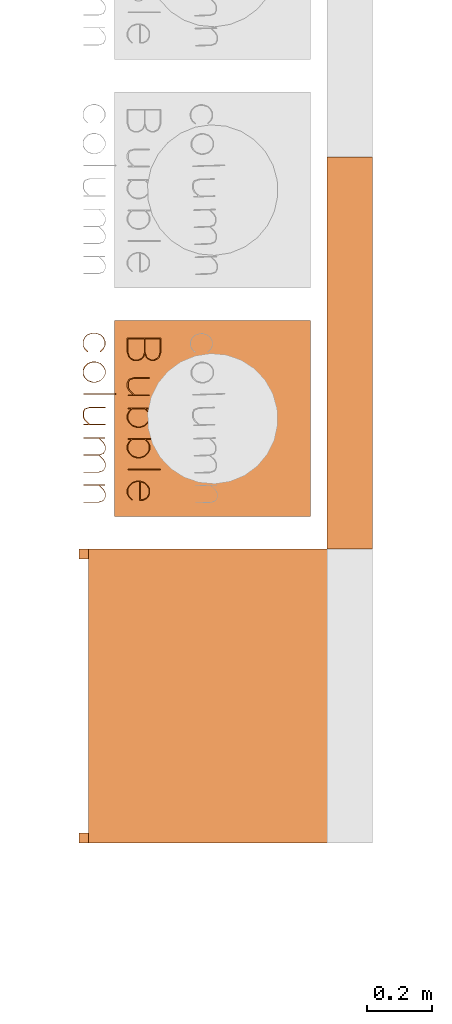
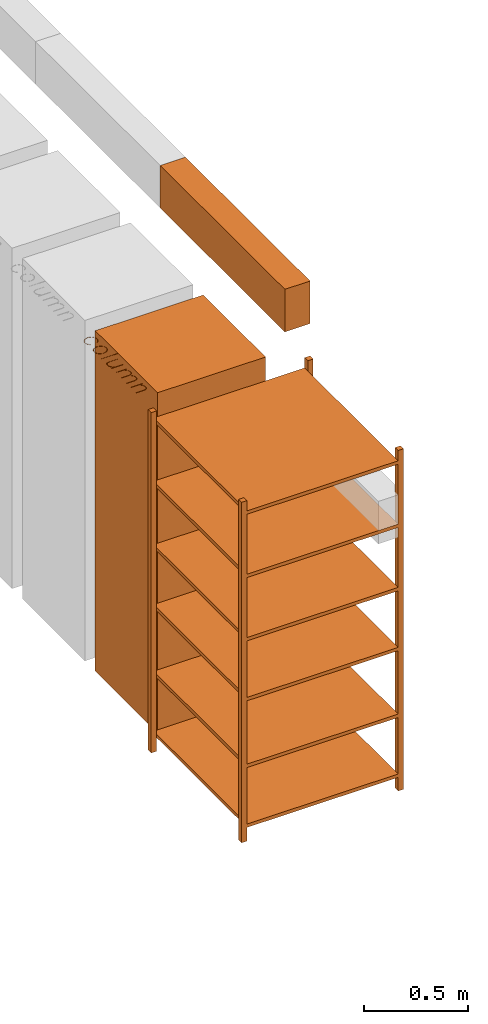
# One storey, part 6 of 43: 3 proxies.
"""IFC2X3 building model written with IfcOpenShell, lengths in metres."""

from ifc_helpers import new_model, entity, si_unit, converted_unit, derived_unit, direction, frame, frame_2d, origin, origin_2d_with_axis, place, context, subcontext, project, spatial, rectangle, extrude, face_set, surface_model, source, transform, mapped, material, material_list, type_object, type_shapes, element, save


model = new_model("IFC2X3")

# Units and contexts
model_context = context("Model", 3, precision=1e-05, world=origin(), true_north=direction((6.12303176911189e-17, 1.0)))
body_context = subcontext(model_context, "Body", "Model", "MODEL_VIEW")
ifc_project = project(units=[si_unit("LENGTHUNIT", "METRE"), si_unit("AREAUNIT", "SQUARE_METRE"), si_unit("VOLUMEUNIT", "CUBIC_METRE"), converted_unit("PLANEANGLEUNIT", "DEGREE", entity("IfcRatioMeasure", 0.0174532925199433), si_unit("PLANEANGLEUNIT", "RADIAN"), dimensions=[0, 0, 0, 0, 0, 0, 0]), si_unit("MASSUNIT", "GRAM", prefix="KILO"), derived_unit("MASSDENSITYUNIT", [(si_unit("MASSUNIT", "GRAM", prefix="KILO"), 1), (si_unit("LENGTHUNIT", "METRE"), -3)]), derived_unit("MOMENTOFINERTIAUNIT", [(si_unit("LENGTHUNIT", "METRE"), 4)]), si_unit("TIMEUNIT", "SECOND"), si_unit("FREQUENCYUNIT", "HERTZ"), si_unit("THERMODYNAMICTEMPERATUREUNIT", "DEGREE_CELSIUS"), derived_unit("THERMALTRANSMITTANCEUNIT", [(si_unit("MASSUNIT", "GRAM", prefix="KILO"), 1), (si_unit("THERMODYNAMICTEMPERATUREUNIT", "KELVIN"), -1), (si_unit("TIMEUNIT", "SECOND"), -3)]), derived_unit("VOLUMETRICFLOWRATEUNIT", [(si_unit("LENGTHUNIT", "METRE"), 3), (si_unit("TIMEUNIT", "SECOND"), -1)]), si_unit("ELECTRICCURRENTUNIT", "AMPERE"), si_unit("ELECTRICVOLTAGEUNIT", "VOLT"), si_unit("POWERUNIT", "WATT"), si_unit("FORCEUNIT", "NEWTON", prefix="KILO"), si_unit("ILLUMINANCEUNIT", "LUX"), si_unit("LUMINOUSFLUXUNIT", "LUMEN"), si_unit("LUMINOUSINTENSITYUNIT", "CANDELA"), derived_unit("USERDEFINED", [(si_unit("MASSUNIT", "GRAM", prefix="KILO"), -1), (si_unit("LENGTHUNIT", "METRE"), -2), (si_unit("TIMEUNIT", "SECOND"), 3), (si_unit("LUMINOUSFLUXUNIT", "LUMEN"), 1)]), derived_unit("LINEARVELOCITYUNIT", [(si_unit("LENGTHUNIT", "METRE"), 1), (si_unit("TIMEUNIT", "SECOND"), -1)]), si_unit("PRESSUREUNIT", "PASCAL"), derived_unit("USERDEFINED", [(si_unit("LENGTHUNIT", "METRE"), -2), (si_unit("MASSUNIT", "GRAM", prefix="KILO"), 1), (si_unit("TIMEUNIT", "SECOND"), -2)]), derived_unit("LINEARFORCEUNIT", [(si_unit("MASSUNIT", "GRAM", prefix="KILO"), 1), (si_unit("LENGTHUNIT", "METRE"), 1), (si_unit("TIMEUNIT", "SECOND"), -2), (si_unit("LENGTHUNIT", "METRE"), -1)]), derived_unit("PLANARFORCEUNIT", [(si_unit("MASSUNIT", "GRAM", prefix="KILO"), 1), (si_unit("LENGTHUNIT", "METRE"), 1), (si_unit("TIMEUNIT", "SECOND"), -2), (si_unit("LENGTHUNIT", "METRE"), -2)])], contexts=[model_context])

# Site, building, storey
site_placement = place(None, origin())
site = spatial("IfcSite", under=ifc_project, at=site_placement, Name="Default", CompositionType="ELEMENT")
building_placement = place(site_placement, origin())
building = spatial("IfcBuilding", under=site, at=building_placement, CompositionType="ELEMENT")
storey_placement = place(building_placement, frame((0.0, 0.0, 3.0)))
storey = spatial("IfcBuildingStorey", under=building, at=storey_placement, Name="01 OG", CompositionType="ELEMENT", Elevation=3.0)

# Proxies
ifc_material_1 = material(Name="dh_EZ blau")
ifc_material_2 = material(Name="dh_Weiß")
ifc_material_list_1 = material_list([ifc_material_1, ifc_material_2])
ifc_material_3 = material(Name="dh_Blau")
ifc_material_list_2 = material_list([ifc_material_2, ifc_material_3, ifc_material_1])
building_element_proxy_type_1 = type_object("IfcBuildingElementProxyType", Name="dh_Einzel_ MEK:MEK 120", PredefinedType="NOTDEFINED", material=ifc_material_list_2)
shared_shape_1 = source(origin(), body_context, "Body", "SweptSolid", [
    extrude(rectangle(XDim=0.06, YDim=0.0299999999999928, at=origin_2d_with_axis()), frame((0.585000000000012, 0.33, 2.19499999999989), z_axis=(0.0, 0.0, 1.0), x_axis=(0.0, 1.0, 0.0)), (0.0, 0.0, 1.0), 0.240000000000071),
    extrude(rectangle(XDim=0.06, YDim=0.0299999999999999, at=origin_2d_with_axis()), frame((-0.584999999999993, 0.33, 2.19499999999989), z_axis=(0.0, 0.0, 1.0), x_axis=(0.0, 1.0, 0.0)), (0.0, 0.0, 1.0), 0.240000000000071),
    extrude(rectangle(XDim=0.06, YDim=1.20000000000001, at=frame_2d((0.0, -2.05391259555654e-15), x_axis=(1.0, 0.0))), frame((0.0, 0.33, 2.43499999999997), z_axis=(0.0, 0.0, 1.0), x_axis=(0.0, 1.0, 0.0)), (0.0, 0.0, 1.0), 0.00500000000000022),
    extrude(rectangle(XDim=1.20000000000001, YDim=0.14, at=frame_2d((-3.21964677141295e-15, -0.00333333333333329), x_axis=(1.0, 0.0))), frame((0.0, 0.293333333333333, 2.18999999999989)), (0.0, 0.0, 1.0), 0.00499999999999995),
    extrude(rectangle(XDim=0.08, YDim=1.20000000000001, at=frame_2d((0.0133333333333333, 2.55351295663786e-15), x_axis=(1.0, 0.0))), frame((0.0, 0.273333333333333, 2.43499999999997), z_axis=(0.0, 0.0, 1.0), x_axis=(0.0, -1.0, 0.0)), (0.0, 0.0, 1.0), 0.00499999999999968),
    extrude(rectangle(XDim=1.2, YDim=0.08, at=frame_2d((0.0, 3.46944695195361e-17), x_axis=(1.0, 0.0))), frame((0.0, 0.26, 2.195), z_axis=(0.0, 0.0, 1.0), x_axis=(-1.0, 0.0, 0.0)), (0.0, 0.0, 1.0), 0.239999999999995),
])
type_shapes(building_element_proxy_type_1, [shared_shape_1])
proxy_1_placement = place(storey_placement, frame((16.6900000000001, 11.8239999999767, 0.7), z_axis=(0.0, 0.0, 1.0), x_axis=(0.0, -1.0, 0.0)))
element("IfcBuildingElementProxy", 1, at=proxy_1_placement, inside=storey, type_object=building_element_proxy_type_1, material=ifc_material_list_1, Name="dh_Einzel_ MEK:MEK 120", ObjectType="dh_Einzel_ MEK:MEK 120", context=body_context, shape_type="MappedRepresentation", body=[
    mapped(shared_shape_1, transform((0.0, 0.0, 0.0), scale=1.0)),
])
ifc_material_4 = material(Name="Aluminium")
ifc_material_5 = material(Name="UHMW, schwarz")
ifc_material_list_3 = material_list([ifc_material_4, ifc_material_5])
ifc_material_list_4 = material_list([ifc_material_5, ifc_material_4])
building_element_proxy_type_2 = type_object("IfcBuildingElementProxyType", Name="dh_Stahlregal:Stahlregal-FB6-90", PredefinedType="NOTDEFINED", material=ifc_material_list_4)
shared_shape_2 = source(origin(), body_context, "Body", "SweptSolid", [
    extrude(rectangle(XDim=0.840000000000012, YDim=0.9, at=origin_2d_with_axis()), frame((0.0, -0.450000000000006, 0.0800000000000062), z_axis=(0.0, 0.0, 1.0), x_axis=(0.0, 1.0, 0.0)), (0.0, 0.0, 1.0), 0.0199999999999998),
    extrude(rectangle(XDim=0.840000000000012, YDim=0.9, at=origin_2d_with_axis()), frame((0.0, -0.450000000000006, 0.431999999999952), z_axis=(0.0, 0.0, 1.0), x_axis=(0.0, 1.0, 0.0)), (0.0, 0.0, 1.0), 0.0200000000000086),
    extrude(rectangle(XDim=0.840000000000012, YDim=0.9, at=origin_2d_with_axis()), frame((0.0, -0.450000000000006, 0.823999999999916), z_axis=(0.0, 0.0, 1.0), x_axis=(0.0, 1.0, 0.0)), (0.0, 0.0, 1.0), 0.0199999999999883),
    extrude(rectangle(XDim=0.840000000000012, YDim=0.9, at=origin_2d_with_axis()), frame((0.0, -0.450000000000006, 1.17599999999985), z_axis=(0.0, 0.0, 1.0), x_axis=(0.0, 1.0, 0.0)), (0.0, 0.0, 1.0), 0.0200000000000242),
    extrude(rectangle(XDim=0.840000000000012, YDim=0.9, at=origin_2d_with_axis()), frame((0.0, -0.450000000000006, 1.54799999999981), z_axis=(0.0, 0.0, 1.0), x_axis=(0.0, 1.0, 0.0)), (0.0, 0.0, 1.0), 0.0200000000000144),
    extrude(rectangle(XDim=0.840000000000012, YDim=0.9, at=origin_2d_with_axis()), frame((0.0, -0.450000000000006, 1.91999999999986), z_axis=(0.0, 0.0, 1.0), x_axis=(0.0, 1.0, 0.0)), (0.0, 0.0, 1.0), 0.0199999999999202),
    extrude(rectangle(XDim=0.0299999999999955, YDim=0.0300000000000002, at=origin_2d_with_axis()), frame((-0.435000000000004, -0.885000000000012, 1.995)), (0.0, 0.0, 1.0), 0.00500000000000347),
    extrude(rectangle(XDim=0.0300000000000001, YDim=0.0300000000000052, at=origin_2d_with_axis()), frame((0.434999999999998, -0.015, 1.995), z_axis=(0.0, 0.0, 1.0), x_axis=(0.0, 1.0, 0.0)), (0.0, 0.0, 1.0), 0.00500000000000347),
    extrude(rectangle(XDim=0.0299999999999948, YDim=0.03, at=origin_2d_with_axis()), frame((-0.435000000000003, -0.015, 1.995)), (0.0, 0.0, 1.0), 0.00500000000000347),
    extrude(rectangle(XDim=0.0300000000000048, YDim=0.0300000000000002, at=origin_2d_with_axis()), frame((0.434999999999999, -0.885000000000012, 1.995)), (0.0, 0.0, 1.0), 0.00500000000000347),
    extrude(rectangle(XDim=0.03, YDim=0.0299999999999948, at=origin_2d_with_axis()), frame((-0.435000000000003, -0.015, 0.00499999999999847), z_axis=(0.0, 0.0, 1.0), x_axis=(0.0, -1.0, 0.0)), (0.0, 0.0, 1.0), 1.99),
    extrude(rectangle(XDim=0.0299999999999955, YDim=0.0300000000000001, at=frame_2d((0.0, -6.76542155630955e-17), x_axis=(1.0, 0.0))), frame((-0.435000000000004, -0.885000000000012, 0.00499999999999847)), (0.0, 0.0, 1.0), 1.99),
    extrude(rectangle(XDim=0.0300000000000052, YDim=0.0300000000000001, at=origin_2d_with_axis()), frame((0.434999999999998, -0.015, 0.00499999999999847)), (0.0, 0.0, 1.0), 1.99),
    extrude(rectangle(XDim=0.0300000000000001, YDim=0.0300000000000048, at=frame_2d((-6.76542155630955e-17, 0.0), x_axis=(1.0, 0.0))), frame((0.434999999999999, -0.885000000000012, 0.00499999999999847), z_axis=(0.0, 0.0, 1.0), x_axis=(0.0, 1.0, 0.0)), (0.0, 0.0, 1.0), 1.99),
    extrude(rectangle(XDim=0.0300000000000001, YDim=0.0300000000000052, at=frame_2d((0.0, -6.76542155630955e-17), x_axis=(1.0, 0.0))), frame((0.434999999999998, -0.015, 0.0), z_axis=(0.0, 0.0, 1.0), x_axis=(0.0, -1.0, 0.0)), (0.0, 0.0, 1.0), 0.005),
    extrude(rectangle(XDim=0.0299999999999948, YDim=0.03, at=origin_2d_with_axis()), frame((-0.435000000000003, -0.015, 0.0), z_axis=(0.0, 0.0, 1.0), x_axis=(-1.0, 0.0, 0.0)), (0.0, 0.0, 1.0), 0.005),
    extrude(rectangle(XDim=0.0299999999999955, YDim=0.0300000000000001, at=frame_2d((6.76542155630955e-17, 6.76542155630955e-17), x_axis=(1.0, 0.0))), frame((-0.435000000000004, -0.885000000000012, 0.0), z_axis=(0.0, 0.0, 1.0), x_axis=(-1.0, 0.0, 0.0)), (0.0, 0.0, 1.0), 0.005),
    extrude(rectangle(XDim=0.0300000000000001, YDim=0.0300000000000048, at=frame_2d((6.76542155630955e-17, 0.0), x_axis=(1.0, 0.0))), frame((0.434999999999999, -0.885000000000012, 0.0), z_axis=(0.0, 0.0, 1.0), x_axis=(0.0, -1.0, 0.0)), (0.0, 0.0, 1.0), 0.005),
])
type_shapes(building_element_proxy_type_2, [shared_shape_2])
proxy_2_placement = place(storey_placement, frame((17.0500000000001, 10.7739999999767, 0.7), z_axis=(0.0, 0.0, 1.0), x_axis=(0.0, -1.0, 0.0)))
element("IfcBuildingElementProxy", 2, at=proxy_2_placement, inside=storey, type_object=building_element_proxy_type_2, material=ifc_material_list_3, Name="dh_Stahlregal:Stahlregal-FB6-90", ObjectType="dh_Stahlregal:Stahlregal-FB6-90", context=body_context, shape_type="MappedRepresentation", body=[
    mapped(shared_shape_2, transform((0.0, 0.0, 0.0), scale=1.0)),
])
ifc_material_6 = material(Name="dh_Stellfläche")
building_element_proxy_type_3 = type_object("IfcBuildingElementProxyType", Name="dh_Gerät_Stellfläche Bestand:Nutzergerät", PredefinedType="NOTDEFINED", material=ifc_material_6)
shared_shape_3 = source(origin(), body_context, "Body", "SurfaceModel", [
    surface_model("IfcFaceBasedSurfaceModel", [(-0.199099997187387, -0.507671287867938, 2.005), (-0.187681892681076, -0.503831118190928, 2.005), (-0.182484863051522, -0.498736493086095, 2.005), (-0.177569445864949, -0.488726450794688, 2.005), (-0.177569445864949, -0.478511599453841, 2.005), (-0.182484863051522, -0.468424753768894, 2.005), (-0.187681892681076, -0.46338133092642, 2.005), (-0.202351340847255, -0.458414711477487, 2.005), (-0.246385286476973, -0.458414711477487, 2.005), (-0.246385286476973, -0.561638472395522, 2.005), (-0.202351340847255, -0.561638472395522, 2.005), (-0.187681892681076, -0.556799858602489, 2.005), (-0.182484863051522, -0.551679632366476, 2.005), (-0.177569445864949, -0.541669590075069, 2.005), (-0.177569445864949, -0.526692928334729, 2.005), (-0.182484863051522, -0.516606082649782, 2.005), (-0.187681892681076, -0.511511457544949, 2.005), (-0.202607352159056, -0.508746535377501, 2.005), (-0.188731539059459, -0.513329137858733, 2.005), (-0.184353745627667, -0.517834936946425, 2.005), (-0.179771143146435, -0.52692333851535, 2.005), (-0.179771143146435, -0.540671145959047, 2.005), (-0.184353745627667, -0.549785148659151, 2.005), (-0.188731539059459, -0.554290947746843, 2.005), (-0.202607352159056, -0.558873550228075, 2.005), (-0.244260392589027, -0.558873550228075, 2.005), (-0.244260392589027, -0.508746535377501, 2.005), (-0.244260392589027, -0.506544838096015, 2.005), (-0.244260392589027, -0.461128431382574, 2.005), (-0.202607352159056, -0.461128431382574, 2.005), (-0.188731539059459, -0.465711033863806, 2.005), (-0.184353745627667, -0.470216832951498, 2.005), (-0.179771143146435, -0.479330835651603, 2.005), (-0.179771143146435, -0.488291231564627, 2.005), (-0.184353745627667, -0.497456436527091, 2.005), (-0.188731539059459, -0.501885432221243, 2.005), (-0.202607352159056, -0.506544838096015, 2.005), (-0.0728096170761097, -0.543922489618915, 2.005), (-0.0728096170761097, -0.559999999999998, 2.005), (-0.0706079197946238, -0.559999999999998, 2.005), (-0.0706079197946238, -0.492822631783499, 2.005), (-0.0728096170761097, -0.492822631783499, 2.005), (-0.0728096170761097, -0.540031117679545, 2.005), (-0.0866854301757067, -0.553778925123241, 2.005), (-0.095773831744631, -0.558361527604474, 2.005), (-0.109521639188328, -0.558361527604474, 2.005), (-0.118354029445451, -0.553906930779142, 2.005), (-0.123013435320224, -0.540287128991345, 2.005), (-0.123013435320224, -0.492822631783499, 2.005), (-0.125138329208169, -0.492822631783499, 2.005), (-0.125138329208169, -0.541413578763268, 2.005), (-0.120274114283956, -0.556646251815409, 2.005), (-0.110059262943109, -0.561638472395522, 2.005), (-0.0952362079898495, -0.561638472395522, 2.005), (-0.0852773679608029, -0.556774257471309, 2.005), (-0.0317454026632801, -0.559999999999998, 2.005), (-0.0296205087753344, -0.559999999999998, 2.005), (-0.0296205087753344, -0.548863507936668, 2.005), (-0.0218377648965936, -0.55682545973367, 2.005), (-0.0118789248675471, -0.561638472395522, 2.005), (0.00291852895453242, -0.561638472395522, 2.005), (0.0128261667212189, -0.55682545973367, 2.005), (0.0226570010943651, -0.546866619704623, 2.005), (0.0275724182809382, -0.532094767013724, 2.005), (0.0275724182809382, -0.522212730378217, 2.005), (0.0226570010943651, -0.507440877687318, 2.005), (0.0128261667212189, -0.497482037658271, 2.005), (0.00291852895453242, -0.492617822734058, 2.005), (-0.0118789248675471, -0.492617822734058, 2.005), (-0.0218377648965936, -0.497482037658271, 2.005), (-0.0296205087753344, -0.505367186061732, 2.005), (-0.0296205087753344, -0.460053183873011, 2.005), (-0.0317454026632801, -0.460053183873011, 2.005), (-0.0296205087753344, -0.508004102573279, 2.005), (-0.02045530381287, -0.499043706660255, 2.005), (-0.0113413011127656, -0.494384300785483, 2.005), (0.00240650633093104, -0.494384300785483, 2.005), (0.0114949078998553, -0.499043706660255, 2.005), (0.0207113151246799, -0.50813210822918, 2.005), (0.0253707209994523, -0.522007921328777, 2.005), (0.0253707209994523, -0.531249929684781, 2.005), (0.0207113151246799, -0.545125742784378, 2.005), (0.0114949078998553, -0.554290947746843, 2.005), (0.00240650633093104, -0.558873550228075, 2.005), (-0.0113413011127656, -0.558873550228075, 2.005), (-0.02045530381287, -0.554290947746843, 2.005), (-0.0296205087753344, -0.545253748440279, 2.005), (0.0616475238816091, -0.559999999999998, 2.005), (0.0637724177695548, -0.559999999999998, 2.005), (0.0637724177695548, -0.548863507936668, 2.005), (0.0715551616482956, -0.55682545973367, 2.005), (0.0815140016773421, -0.561638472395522, 2.005), (0.0963114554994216, -0.561638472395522, 2.005), (0.106219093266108, -0.55682545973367, 2.005), (0.116049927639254, -0.546866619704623, 2.005), (0.120965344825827, -0.532094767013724, 2.005), (0.120965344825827, -0.522212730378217, 2.005), (0.116049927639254, -0.507440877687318, 2.005), (0.106219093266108, -0.497482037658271, 2.005), (0.0963114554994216, -0.492617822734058, 2.005), (0.0815140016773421, -0.492617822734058, 2.005), (0.0715551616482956, -0.497482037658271, 2.005), (0.0637724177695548, -0.505367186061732, 2.005), (0.0637724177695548, -0.460053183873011, 2.005), (0.0616475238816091, -0.460053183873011, 2.005), (0.0637724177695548, -0.508004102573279, 2.005), (0.0729376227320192, -0.499043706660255, 2.005), (0.0820516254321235, -0.494384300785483, 2.005), (0.0957994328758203, -0.494384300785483, 2.005), (0.104887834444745, -0.499043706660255, 2.005), (0.114104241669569, -0.50813210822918, 2.005), (0.118763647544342, -0.522007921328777, 2.005), (0.118763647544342, -0.531249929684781, 2.005), (0.114104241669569, -0.545125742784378, 2.005), (0.104887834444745, -0.554290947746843, 2.005), (0.0957994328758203, -0.558873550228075, 2.005), (0.0820516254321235, -0.558873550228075, 2.005), (0.0729376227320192, -0.554290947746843, 2.005), (0.0637724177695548, -0.545253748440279, 2.005), (0.155040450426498, -0.559999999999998, 2.005), (0.157165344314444, -0.559999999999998, 2.005), (0.157165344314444, -0.460053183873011, 2.005), (0.155040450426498, -0.460053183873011, 2.005), (0.250276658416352, -0.547199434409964, 2.005), (0.248612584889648, -0.545535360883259, 2.005), (0.239242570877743, -0.554982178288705, 2.005), (0.230154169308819, -0.559564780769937, 2.005), (0.216406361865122, -0.559564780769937, 2.005), (0.207292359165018, -0.554982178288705, 2.005), (0.197999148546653, -0.54579137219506, 2.005), (0.193416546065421, -0.531889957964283, 2.005), (0.193416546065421, -0.523646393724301, 2.005), (0.250532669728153, -0.523646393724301, 2.005), (0.250532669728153, -0.512714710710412, 2.005), (0.24561725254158, -0.502730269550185, 2.005), (0.240573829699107, -0.497686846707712, 2.005), (0.23066619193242, -0.492822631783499, 2.005), (0.215868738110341, -0.492822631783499, 2.005), (0.205909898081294, -0.497686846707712, 2.005), (0.196155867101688, -0.507671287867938, 2.005), (0.191240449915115, -0.522366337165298, 2.005), (0.191240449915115, -0.532222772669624, 2.005), (0.196155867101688, -0.546917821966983, 2.005), (0.205909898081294, -0.55685106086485, 2.005), (0.215868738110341, -0.561638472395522, 2.005), (0.23066619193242, -0.561638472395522, 2.005), (0.240573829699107, -0.55685106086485, 2.005), (0.193826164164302, -0.521444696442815, 2.005), (0.197999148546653, -0.508746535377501, 2.005), (0.207292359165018, -0.499658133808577, 2.005), (0.216406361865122, -0.494998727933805, 2.005), (0.230154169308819, -0.494998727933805, 2.005), (0.239242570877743, -0.499658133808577, 2.005), (0.243748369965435, -0.504163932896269, 2.005), (0.248330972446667, -0.513277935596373, 2.005), (0.248330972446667, -0.521444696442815, 2.005), (-0.203580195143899, -0.6832458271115, 2.005), (-0.205244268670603, -0.681581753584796, 2.005), (-0.214614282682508, -0.691028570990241, 2.005), (-0.223702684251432, -0.695611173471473, 2.005), (-0.237450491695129, -0.695611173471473, 2.005), (-0.246564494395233, -0.691028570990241, 2.005), (-0.255857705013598, -0.681837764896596, 2.005), (-0.26044030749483, -0.667936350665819, 2.005), (-0.26044030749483, -0.658694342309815, 2.005), (-0.255857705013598, -0.644767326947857, 2.005), (-0.246564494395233, -0.635653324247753, 2.005), (-0.237450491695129, -0.630993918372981, 2.005), (-0.223702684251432, -0.630993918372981, 2.005), (-0.214614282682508, -0.635653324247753, 2.005), (-0.205244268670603, -0.645048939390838, 2.005), (-0.203580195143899, -0.643436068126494, 2.005), (-0.213283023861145, -0.633733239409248, 2.005), (-0.223190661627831, -0.628869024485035, 2.005), (-0.237988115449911, -0.628869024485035, 2.005), (-0.247946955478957, -0.633733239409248, 2.005), (-0.257700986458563, -0.643717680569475, 2.005), (-0.262616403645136, -0.658412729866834, 2.005), (-0.262616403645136, -0.66826916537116, 2.005), (-0.257700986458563, -0.682964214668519, 2.005), (-0.247946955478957, -0.692897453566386, 2.005), (-0.237988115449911, -0.697684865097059, 2.005), (-0.223190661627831, -0.697684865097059, 2.005), (-0.213283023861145, -0.692897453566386, 2.005), (-0.114974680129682, -0.682964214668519, 2.005), (-0.110059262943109, -0.66826916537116, 2.005), (-0.110059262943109, -0.658412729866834, 2.005), (-0.114974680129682, -0.643717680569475, 2.005), (-0.124805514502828, -0.633733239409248, 2.005), (-0.134713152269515, -0.628869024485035, 2.005), (-0.149510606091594, -0.628869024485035, 2.005), (-0.159469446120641, -0.633733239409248, 2.005), (-0.169223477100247, -0.643717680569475, 2.005), (-0.17413889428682, -0.658412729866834, 2.005), (-0.17413889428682, -0.66826916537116, 2.005), (-0.169223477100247, -0.682964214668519, 2.005), (-0.159469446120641, -0.692897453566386, 2.005), (-0.149510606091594, -0.697684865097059, 2.005), (-0.134713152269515, -0.697684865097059, 2.005), (-0.124805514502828, -0.692897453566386, 2.005), (-0.116920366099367, -0.681172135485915, 2.005), (-0.126136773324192, -0.690337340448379, 2.005), (-0.135225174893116, -0.694919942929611, 2.005), (-0.148972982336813, -0.694919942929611, 2.005), (-0.158086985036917, -0.690337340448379, 2.005), (-0.167380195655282, -0.681172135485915, 2.005), (-0.171962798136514, -0.667296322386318, 2.005), (-0.171962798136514, -0.658054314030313, 2.005), (-0.167380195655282, -0.644178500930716, 2.005), (-0.158086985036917, -0.635090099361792, 2.005), (-0.148972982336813, -0.630430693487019, 2.005), (-0.135225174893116, -0.630430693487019, 2.005), (-0.126136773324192, -0.635090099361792, 2.005), (-0.116920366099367, -0.644178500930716, 2.005), (-0.112260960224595, -0.658054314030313, 2.005), (-0.112260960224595, -0.667296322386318, 2.005), (-0.0759841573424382, -0.696046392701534, 2.005), (-0.0738592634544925, -0.696046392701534, 2.005), (-0.0738592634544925, -0.596099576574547, 2.005), (-0.0759841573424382, -0.596099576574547, 2.005), (0.0173063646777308, -0.679968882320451, 2.005), (0.0173063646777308, -0.696046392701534, 2.005), (0.0195080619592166, -0.696046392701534, 2.005), (0.0195080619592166, -0.628869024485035, 2.005), (0.0173063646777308, -0.628869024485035, 2.005), (0.0173063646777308, -0.676077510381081, 2.005), (0.00343055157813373, -0.689825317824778, 2.005), (-0.00565784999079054, -0.69440792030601, 2.005), (-0.0194056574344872, -0.69440792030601, 2.005), (-0.0282380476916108, -0.689953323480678, 2.005), (-0.0328974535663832, -0.676333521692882, 2.005), (-0.0328974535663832, -0.628869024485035, 2.005), (-0.0350223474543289, -0.628869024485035, 2.005), (-0.0350223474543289, -0.677459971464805, 2.005), (-0.0301581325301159, -0.692692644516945, 2.005), (-0.0199432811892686, -0.697684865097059, 2.005), (-0.00512022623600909, -0.697684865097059, 2.005), (0.00483861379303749, -0.692820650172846, 2.005), (0.0583705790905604, -0.696046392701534, 2.005), (0.060495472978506, -0.696046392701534, 2.005), (0.060495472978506, -0.648837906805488, 2.005), (0.0743968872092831, -0.635090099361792, 2.005), (0.0835364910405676, -0.630430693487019, 2.005), (0.0972330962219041, -0.630430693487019, 2.005), (0.106116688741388, -0.634962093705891, 2.005), (0.11069929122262, -0.648556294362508, 2.005), (0.11069929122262, -0.696046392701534, 2.005), (0.112900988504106, -0.696046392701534, 2.005), (0.112900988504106, -0.648837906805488, 2.005), (0.126776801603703, -0.635090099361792, 2.005), (0.135865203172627, -0.630430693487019, 2.005), (0.149613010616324, -0.630430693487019, 2.005), (0.158445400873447, -0.634962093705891, 2.005), (0.16310480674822, -0.648556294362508, 2.005), (0.16310480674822, -0.696046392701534, 2.005), (0.165229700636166, -0.696046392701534, 2.005), (0.165229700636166, -0.648684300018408, 2.005), (0.160365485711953, -0.633810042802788, 2.005), (0.150150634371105, -0.628869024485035, 2.005), (0.135353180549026, -0.628869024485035, 2.005), (0.125394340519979, -0.633682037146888, 2.005), (0.112235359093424, -0.646789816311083, 2.005), (0.107985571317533, -0.633810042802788, 2.005), (0.0978219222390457, -0.628869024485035, 2.005), (0.082947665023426, -0.628869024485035, 2.005), (0.0730656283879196, -0.633682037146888, 2.005), (0.060495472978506, -0.646252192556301, 2.005), (0.060495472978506, -0.629790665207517, 2.005), (0.0583705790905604, -0.629790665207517, 2.005), (0.202556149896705, -0.696046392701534, 2.005), (0.204681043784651, -0.696046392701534, 2.005), (0.204681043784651, -0.648837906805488, 2.005), (0.218582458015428, -0.635090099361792, 2.005), (0.227722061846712, -0.630430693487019, 2.005), (0.241418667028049, -0.630430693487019, 2.005), (0.250302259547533, -0.634962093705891, 2.005), (0.254884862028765, -0.648556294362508, 2.005), (0.254884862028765, -0.696046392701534, 2.005), (0.257086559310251, -0.696046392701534, 2.005), (0.257086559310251, -0.648684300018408, 2.005), (0.252171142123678, -0.633810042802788, 2.005), (0.24200749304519, -0.628869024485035, 2.005), (0.227133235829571, -0.628869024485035, 2.005), (0.217251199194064, -0.633682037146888, 2.005), (0.204681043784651, -0.646252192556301, 2.005), (0.204681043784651, -0.629790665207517, 2.005), (0.202556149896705, -0.629790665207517, 2.005), (0.300483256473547, 0.0, 2.0), (0.300483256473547, -0.600000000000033, 2.0), (-0.300483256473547, -0.600000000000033, 2.0), (-0.300483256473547, 0.0, 2.0), (0.300483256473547, 0.0, 0.0), (0.300483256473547, -0.600000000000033, 0.0), (-0.300483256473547, -0.600000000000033, 0.0), (-0.300483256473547, 0.0, 0.0)], [face_set([[[0, 1, 2, 3, 4, 5, 6, 7, 8, 9, 10, 11, 12, 13, 14, 15, 16], [17, 18, 19, 20, 21, 22, 23, 24, 25, 26], [27, 28, 29, 30, 31, 32, 33, 34, 35, 36]]]), face_set([[[37, 38, 39, 40, 41, 42, 43, 44, 45, 46, 47, 48, 49, 50, 51, 52, 53, 54]]]), face_set([[[55, 56, 57, 58, 59, 60, 61, 62, 63, 64, 65, 66, 67, 68, 69, 70, 71, 72], [73, 74, 75, 76, 77, 78, 79, 80, 81, 82, 83, 84, 85, 86]]]), face_set([[[87, 88, 89, 90, 91, 92, 93, 94, 95, 96, 97, 98, 99, 100, 101, 102, 103, 104], [105, 106, 107, 108, 109, 110, 111, 112, 113, 114, 115, 116, 117, 118]]]), face_set([[[119, 120, 121, 122]]]), face_set([[[123, 124, 125, 126, 127, 128, 129, 130, 131, 132, 133, 134, 135, 136, 137, 138, 139, 140, 141, 142, 143, 144, 145, 146], [147, 148, 149, 150, 151, 152, 153, 154, 155]]]), face_set([[[156, 157, 158, 159, 160, 161, 162, 163, 164, 165, 166, 167, 168, 169, 170, 171, 172, 173, 174, 175, 176, 177, 178, 179, 180, 181, 182, 183]]]), face_set([[[184, 185, 186, 187, 188, 189, 190, 191, 192, 193, 194, 195, 196, 197, 198, 199], [200, 201, 202, 203, 204, 205, 206, 207, 208, 209, 210, 211, 212, 213, 214, 215]]]), face_set([[[216, 217, 218, 219]]]), face_set([[[220, 221, 222, 223, 224, 225, 226, 227, 228, 229, 230, 231, 232, 233, 234, 235, 236, 237]]]), face_set([[[238, 239, 240, 241, 242, 243, 244, 245, 246, 247, 248, 249, 250, 251, 252, 253, 254, 255, 256, 257, 258, 259, 260, 261, 262, 263, 264, 265, 266, 267, 268]]]), face_set([[[269, 270, 271, 272, 273, 274, 275, 276, 277, 278, 279, 280, 281, 282, 283, 284, 285, 286]]]), face_set([[[287, 288, 289, 290]], [[291, 292, 293, 294]], [[290, 287, 291, 294]], [[289, 290, 294, 293]], [[288, 292, 293, 289]], [[287, 288, 292, 291]]])]),
])
type_shapes(building_element_proxy_type_3, [shared_shape_3])
proxy_3_placement = place(storey_placement, frame((16.8600000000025, 11.6235167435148, 0.7), z_axis=(0.0, 0.0, 1.0), x_axis=(0.0, -1.0, 0.0)))
element("IfcBuildingElementProxy", 3, at=proxy_3_placement, inside=storey, type_object=building_element_proxy_type_3, material=ifc_material_6, Name="dh_Gerät_Stellfläche Bestand:Nutzergerät", ObjectType="dh_Gerät_Stellfläche Bestand:Nutzergerät", context=body_context, shape_type="MappedRepresentation", body=[
    mapped(shared_shape_3, transform((0.0, 0.0, 0.0), scale=1.0)),
])

save(model, "model.ifc")
